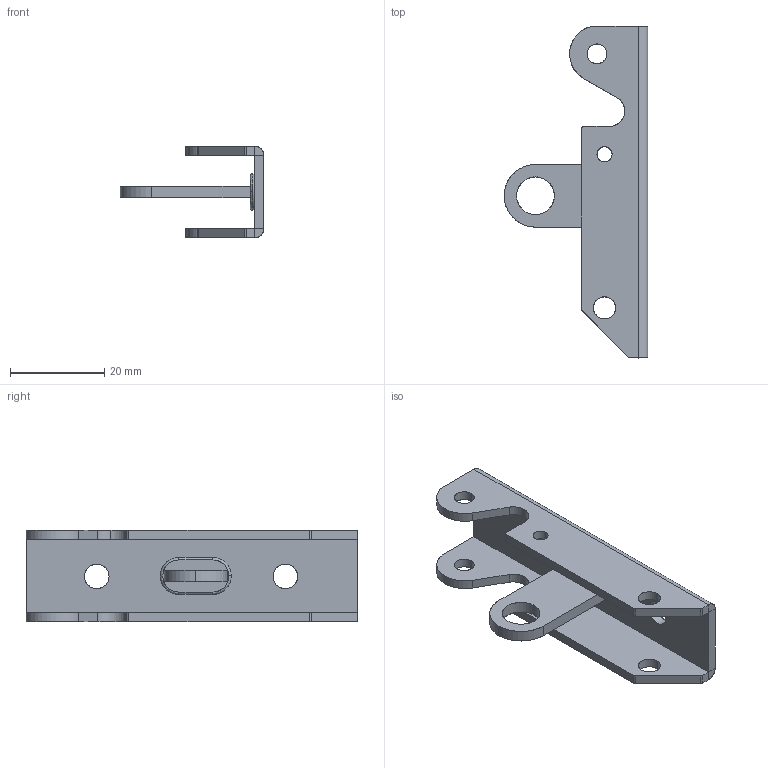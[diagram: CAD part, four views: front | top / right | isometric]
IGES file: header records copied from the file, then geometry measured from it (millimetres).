
Start section: SolidWorks IGES FILE using analytic representation for surfaces
Global section: file name: C:\Documents and Settings\brechard\Bureau\GE 92\79.021.10.IGS; native system: SolidWorks 2001Plus by SolidWorks Corporation; preprocessor: Version 5.3; author: brechard; date: 050126.112501; units: millimetre
Bounding box: 30.5 x 70.4 x 19.5 mm (x, y, z)
Surface area: 6908.6 mm2 (no closed solid volume)
Topology: 0 solids, 0 shells, 83 faces, 1262 edges, 1262 vertices
Faces by surface type: revolution 43, bspline 40
